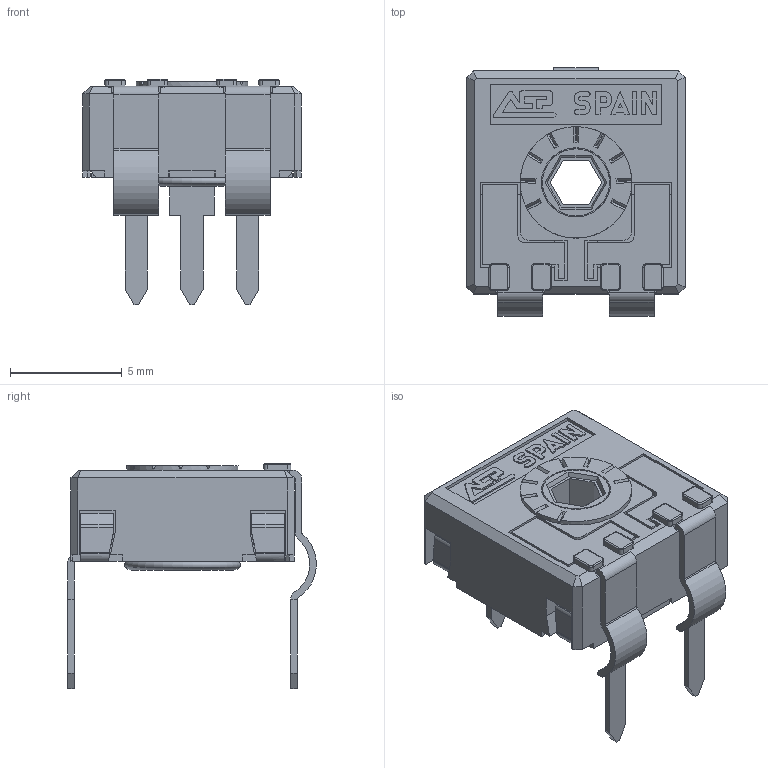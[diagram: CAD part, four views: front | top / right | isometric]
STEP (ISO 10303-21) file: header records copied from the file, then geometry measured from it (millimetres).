
FILE_DESCRIPTION(/* description */ (''),/* implementation_level */ '2;1');
FILE_NAME(/* name */ '\\SERVERACP\intercambio\Ignacio Santa Cecilia\Nueva WEB 2025\CA9 - CE9\CA9MVR10.stp',/* time_stamp */ '2025-06-03T15:28:10+02:00',/* author */ ('CEM'),/* organization */ (''),/* preprocessor_version */ 'ST-DEVELOPER v17',/* originating_system */ 'Autodesk Inventor 2018',/* authorisation */ '');
FILE_SCHEMA (('AUTOMOTIVE_DESIGN { 1 0 10303 214 3 1 1 }'));
Length unit declared in the file: millimetre
Products named in the file (1): CA9MVR10
Bounding box: 9.8 x 11.15 x 10.1 mm (x, y, z)
Volume: 245.1 mm3; surface area: 867.1 mm2
Topology: 2 solids, 2 shells, 619 faces, 1752 edges, 1121 vertices
Faces by surface type: plane 481, cylinder 97, torus 19, cone 16, bspline 6
Full cylindrical faces by diameter (mm): 3 x1, 3.1 x1, 4 x1, 4.8 x1, 5 x1
Entity records: 20173 total; most frequent: CARTESIAN_POINT 3701, ORIENTED_EDGE 3504, DIRECTION 3250, EDGE_CURVE 1752, LINE 1406, VECTOR 1406, VERTEX_POINT 1121, AXIS2_PLACEMENT_3D 922
